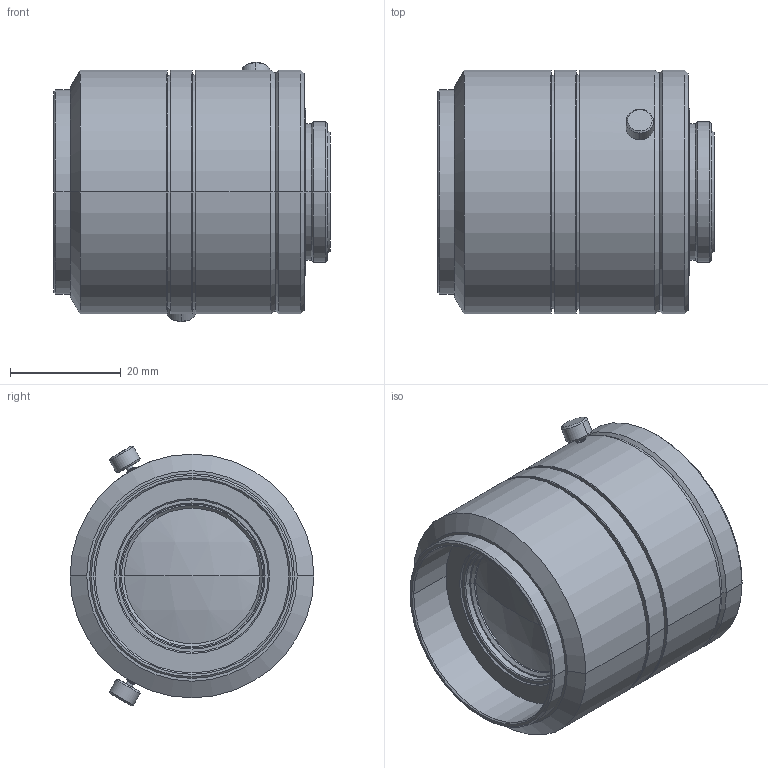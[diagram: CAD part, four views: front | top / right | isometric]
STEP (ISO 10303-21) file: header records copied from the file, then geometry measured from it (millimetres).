
FILE_DESCRIPTION (( 'STEP AP203' ), '1' );
FILE_NAME ('SV-3514H.STEP', '2013-09-04T06:53:09', ( 'VS Technology' ), ( '' ), 'SwSTEP 2.0', 'SolidWorks 2012', '' );
FILE_SCHEMA (( 'CONFIG_CONTROL_DESIGN' ));
Length unit declared in the file: millimetre
Products named in the file (1): SV-3514H
Bounding box: 49.91 x 44 x 46.89 mm (x, y, z)
Volume: 60150.8 mm3; surface area: 11128.2 mm2
Topology: 1 solids, 1 shells, 114 faces, 226 edges, 132 vertices
Faces by surface type: cone 48, cylinder 44, plane 18, sphere 4
Entity records: 3065 total; most frequent: DIRECTION 582, CARTESIAN_POINT 537, ORIENTED_EDGE 452, AXIS2_PLACEMENT_3D 245, EDGE_CURVE 226, VERTEX_POINT 132, EDGE_LOOP 132, CIRCLE 130
